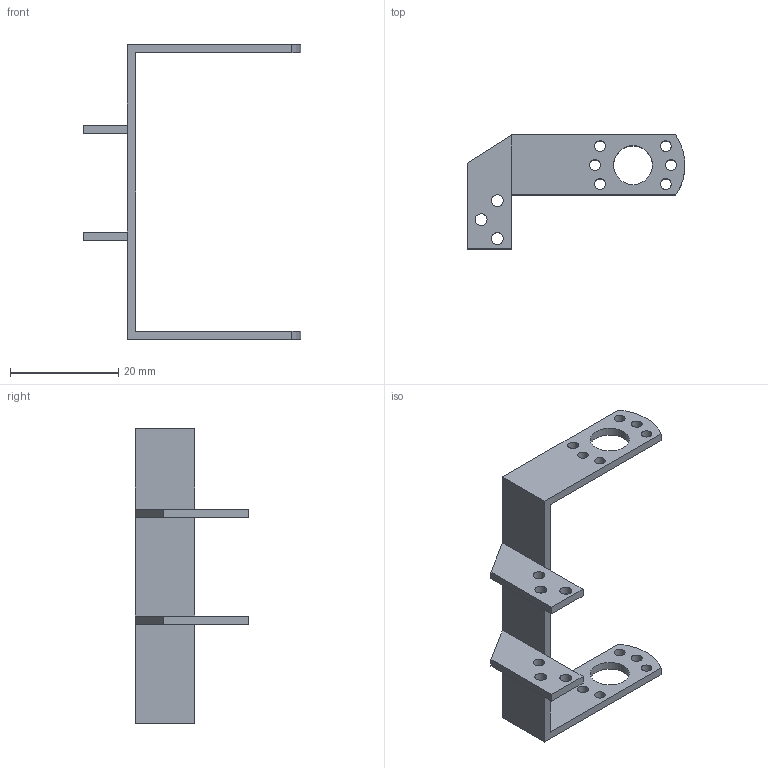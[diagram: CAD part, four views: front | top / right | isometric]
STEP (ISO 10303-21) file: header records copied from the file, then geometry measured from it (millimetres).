
FILE_DESCRIPTION(/* description */ (''),/* implementation_level */ '2;1');
FILE_NAME(/* name */ 'C:/Users/priba/Downloads/GripperCoupler10mmShift.step',/* time_stamp */ '2020-11-25T21:13:46+01:00',/* author */ (''),/* organization */ (''),/* preprocessor_version */ 'ST-DEVELOPER v18.1',/* originating_system */ 'Autodesk Translation Framework v9.3.0.1241',/* authorisation */ '');
FILE_SCHEMA (('AUTOMOTIVE_DESIGN { 1 0 10303 214 3 1 1 }'));
Length unit declared in the file: millimetre
Products named in the file (2): GripperCoupler10mmShift; GripperCoupler15mmShift
Assembly tree (1 placements, depth 2):
  GripperCoupler10mmShift
    GripperCoupler15mmShift
Bounding box: 40.15 x 21 x 54.35 mm (x, y, z)
Volume: 2123.6 mm3; surface area: 3543.4 mm2
Topology: 1 solids, 1 shells, 44 faces, 118 edges, 76 vertices
Faces by surface type: plane 22, cylinder 22
Full cylindrical faces by diameter (mm): 2 x12, 2.2 x6, 7.2 x2
Entity records: 1515 total; most frequent: DIRECTION 256, CARTESIAN_POINT 241, ORIENTED_EDGE 236, EDGE_CURVE 118, AXIS2_PLACEMENT_3D 91, EDGE_LOOP 84, VERTEX_POINT 76, LINE 74
